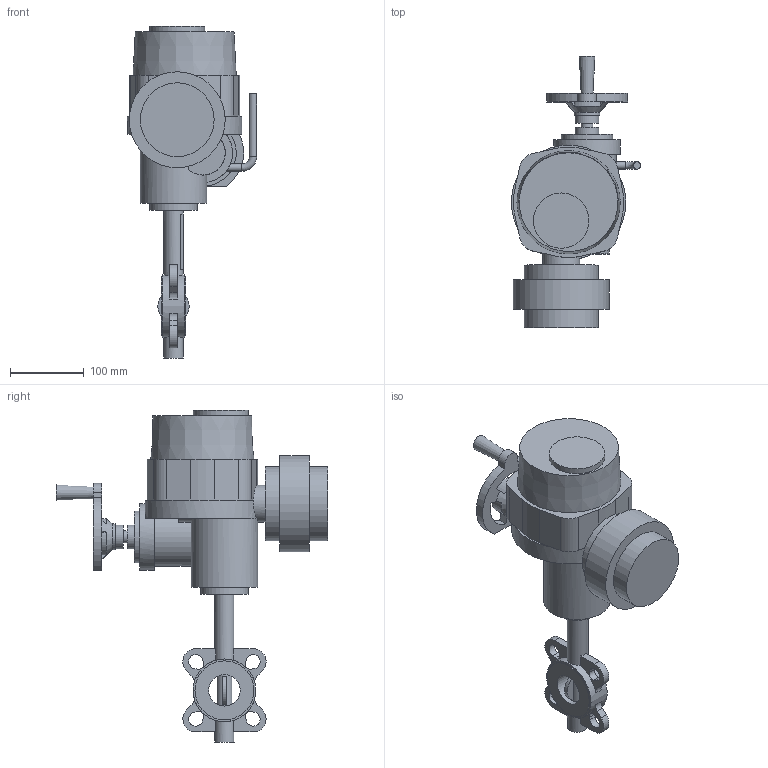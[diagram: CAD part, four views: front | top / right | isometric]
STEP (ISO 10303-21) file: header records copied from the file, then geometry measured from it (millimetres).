
FILE_DESCRIPTION(('STEP AP203'), '1');
FILE_NAME('Çàòâîð 017W.Z(÷óãóí) DN40+ÝÏ QT.A005', '', ('UNSPECIFIED'), ('UNSPECIFIED'), 'ASCON STEP Converter 1.6', 'ASCON Math Kernel', '');
FILE_SCHEMA(('CONFIG_CONTROL_DESIGN'));
Length unit declared in the file: millimetre
Bounding box: 175 x 368 x 450 mm (x, y, z)
Volume: 4556484.4 mm3; surface area: 302937.9 mm2
Topology: 1 solids, 2 shells, 709 faces, 2024 edges, 1301 vertices
Faces by surface type: cylinder 470, plane 235, cone 3, torus 1
Full cylindrical faces by diameter (mm): 6.7 x8, 8 x4, 10 x2, 12.6 x1, 16 x1, 20 x2, 26 x2, 32 x2, 35 x2, 42.6 x1, 50 x1, 65 x1, 70 x1, 75 x1, 80 x2, 85 x1, 90 x2, 100 x2, 130 x1
Entity records: 30251 total; most frequent: CARTESIAN_POINT 5236, DIRECTION 4395, ORIENTED_EDGE 3905, EDGE_CURVE 1984, AXIS2_PLACEMENT_3D 1729, VERTEX_POINT 1301, CIRCLE 1019, LINE 937
